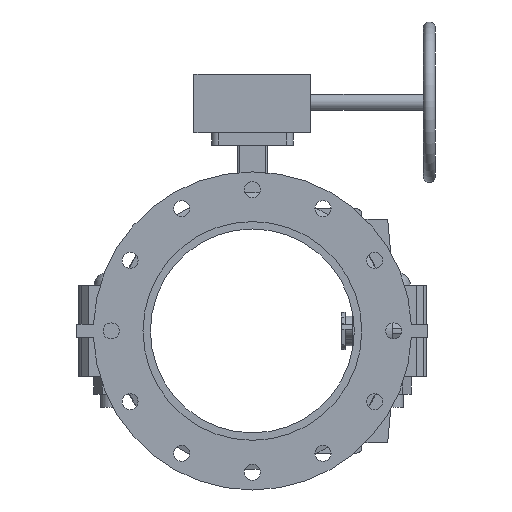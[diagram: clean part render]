
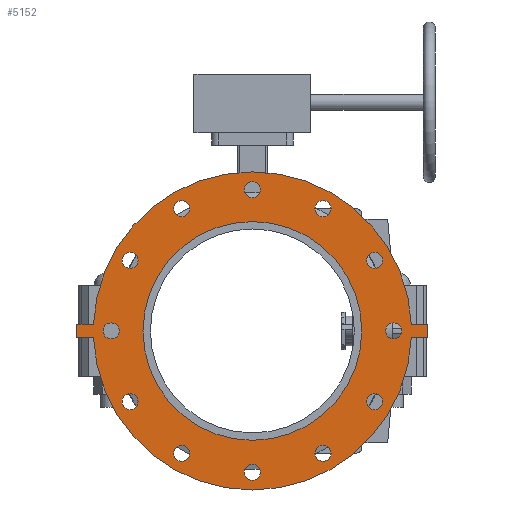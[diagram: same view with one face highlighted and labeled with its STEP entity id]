
A CAD part, front view. The second image highlights one B-rep face of the part: STEP entity #5152.
In plain terms, the highlighted planar face has unit normal (0, -1, 0) as drawn and (0, 0, -1) by its records, which use the part's own axes.
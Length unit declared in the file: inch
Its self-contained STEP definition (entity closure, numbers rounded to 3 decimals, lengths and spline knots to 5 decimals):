
#146=FACE_BOUND('',#701,.T.);
#147=FACE_BOUND('',#702,.T.);
#148=FACE_BOUND('',#703,.T.);
#149=FACE_BOUND('',#704,.T.);
#150=FACE_BOUND('',#705,.T.);
#151=FACE_BOUND('',#706,.T.);
#152=FACE_BOUND('',#707,.T.);
#153=FACE_BOUND('',#708,.T.);
#154=FACE_BOUND('',#709,.T.);
#155=FACE_BOUND('',#710,.T.);
#156=FACE_BOUND('',#711,.T.);
#157=FACE_BOUND('',#712,.T.);
#158=FACE_BOUND('',#713,.T.);
#223=PLANE('',#5629);
#405=FACE_OUTER_BOUND('',#700,.T.);
#700=EDGE_LOOP('',(#3396,#3397,#3398,#3399,#3400,#3401,#3402,#3403));
#701=EDGE_LOOP('',(#3404));
#702=EDGE_LOOP('',(#3405));
#703=EDGE_LOOP('',(#3406));
#704=EDGE_LOOP('',(#3407));
#705=EDGE_LOOP('',(#3408));
#706=EDGE_LOOP('',(#3409));
#707=EDGE_LOOP('',(#3410));
#708=EDGE_LOOP('',(#3411));
#709=EDGE_LOOP('',(#3412));
#710=EDGE_LOOP('',(#3413));
#711=EDGE_LOOP('',(#3414));
#712=EDGE_LOOP('',(#3415));
#713=EDGE_LOOP('',(#3416));
#1047=LINE('',#7863,#1414);
#1050=LINE('',#7869,#1417);
#1053=LINE('',#7874,#1420);
#1055=LINE('',#7879,#1422);
#1059=LINE('',#7886,#1426);
#1061=LINE('',#7889,#1428);
#1414=VECTOR('',#6295,0.3937);
#1417=VECTOR('',#6300,0.3937);
#1420=VECTOR('',#6305,0.3937);
#1422=VECTOR('',#6309,0.3937);
#1426=VECTOR('',#6315,0.3937);
#1428=VECTOR('',#6319,0.3937);
#1765=CIRCLE('',#5579,0.395);
#1767=CIRCLE('',#5582,0.395);
#1769=CIRCLE('',#5585,0.395);
#1771=CIRCLE('',#5588,0.395);
#1773=CIRCLE('',#5591,0.395);
#1775=CIRCLE('',#5594,0.395);
#1777=CIRCLE('',#5597,0.395);
#1779=CIRCLE('',#5600,0.395);
#1781=CIRCLE('',#5603,0.395);
#1783=CIRCLE('',#5606,0.395);
#1785=CIRCLE('',#5609,0.395);
#1787=CIRCLE('',#5612,0.395);
#1788=CIRCLE('',#5614,5.375);
#1790=CIRCLE('',#5617,7.815);
#1793=CIRCLE('',#5621,7.815);
#2071=VERTEX_POINT('',#7768);
#2073=VERTEX_POINT('',#7774);
#2075=VERTEX_POINT('',#7780);
#2077=VERTEX_POINT('',#7786);
#2079=VERTEX_POINT('',#7792);
#2081=VERTEX_POINT('',#7798);
#2083=VERTEX_POINT('',#7804);
#2085=VERTEX_POINT('',#7810);
#2087=VERTEX_POINT('',#7816);
#2089=VERTEX_POINT('',#7822);
#2091=VERTEX_POINT('',#7828);
#2093=VERTEX_POINT('',#7834);
#2094=VERTEX_POINT('',#7838);
#2096=VERTEX_POINT('',#7844);
#2098=VERTEX_POINT('',#7847);
#2100=VERTEX_POINT('',#7853);
#2103=VERTEX_POINT('',#7858);
#2104=VERTEX_POINT('',#7862);
#2106=VERTEX_POINT('',#7868);
#2108=VERTEX_POINT('',#7877);
#2109=VERTEX_POINT('',#7878);
#2567=EDGE_CURVE('',#2071,#2071,#1765,.T.);
#2570=EDGE_CURVE('',#2073,#2073,#1767,.T.);
#2573=EDGE_CURVE('',#2075,#2075,#1769,.T.);
#2576=EDGE_CURVE('',#2077,#2077,#1771,.T.);
#2579=EDGE_CURVE('',#2079,#2079,#1773,.T.);
#2582=EDGE_CURVE('',#2081,#2081,#1775,.T.);
#2585=EDGE_CURVE('',#2083,#2083,#1777,.T.);
#2588=EDGE_CURVE('',#2085,#2085,#1779,.T.);
#2591=EDGE_CURVE('',#2087,#2087,#1781,.T.);
#2594=EDGE_CURVE('',#2089,#2089,#1783,.T.);
#2597=EDGE_CURVE('',#2091,#2091,#1785,.T.);
#2600=EDGE_CURVE('',#2093,#2093,#1787,.T.);
#2601=EDGE_CURVE('',#2094,#2094,#1788,.T.);
#2605=EDGE_CURVE('',#2096,#2098,#1790,.T.);
#2611=EDGE_CURVE('',#2103,#2100,#1793,.T.);
#2612=EDGE_CURVE('',#2098,#2104,#1047,.T.);
#2615=EDGE_CURVE('',#2106,#2103,#1050,.T.);
#2618=EDGE_CURVE('',#2104,#2106,#1053,.T.);
#2620=EDGE_CURVE('',#2108,#2109,#1055,.T.);
#2624=EDGE_CURVE('',#2100,#2108,#1059,.T.);
#2626=EDGE_CURVE('',#2109,#2096,#1061,.T.);
#3396=ORIENTED_EDGE('',*,*,#2626,.F.);
#3397=ORIENTED_EDGE('',*,*,#2620,.F.);
#3398=ORIENTED_EDGE('',*,*,#2624,.F.);
#3399=ORIENTED_EDGE('',*,*,#2611,.F.);
#3400=ORIENTED_EDGE('',*,*,#2615,.F.);
#3401=ORIENTED_EDGE('',*,*,#2618,.F.);
#3402=ORIENTED_EDGE('',*,*,#2612,.F.);
#3403=ORIENTED_EDGE('',*,*,#2605,.F.);
#3404=ORIENTED_EDGE('',*,*,#2567,.T.);
#3405=ORIENTED_EDGE('',*,*,#2570,.T.);
#3406=ORIENTED_EDGE('',*,*,#2573,.T.);
#3407=ORIENTED_EDGE('',*,*,#2576,.T.);
#3408=ORIENTED_EDGE('',*,*,#2579,.T.);
#3409=ORIENTED_EDGE('',*,*,#2582,.T.);
#3410=ORIENTED_EDGE('',*,*,#2585,.T.);
#3411=ORIENTED_EDGE('',*,*,#2588,.T.);
#3412=ORIENTED_EDGE('',*,*,#2591,.T.);
#3413=ORIENTED_EDGE('',*,*,#2594,.T.);
#3414=ORIENTED_EDGE('',*,*,#2597,.T.);
#3415=ORIENTED_EDGE('',*,*,#2600,.T.);
#3416=ORIENTED_EDGE('',*,*,#2601,.T.);
#5152=ADVANCED_FACE('',(#405,#146,#147,#148,#149,#150,#151,#152,#153,#154,
#155,#156,#157,#158),#223,.F.);
#5579=AXIS2_PLACEMENT_3D('',#7770,#6191,#6192);
#5582=AXIS2_PLACEMENT_3D('',#7776,#6198,#6199);
#5585=AXIS2_PLACEMENT_3D('',#7782,#6205,#6206);
#5588=AXIS2_PLACEMENT_3D('',#7788,#6212,#6213);
#5591=AXIS2_PLACEMENT_3D('',#7794,#6219,#6220);
#5594=AXIS2_PLACEMENT_3D('',#7800,#6226,#6227);
#5597=AXIS2_PLACEMENT_3D('',#7806,#6233,#6234);
#5600=AXIS2_PLACEMENT_3D('',#7812,#6240,#6241);
#5603=AXIS2_PLACEMENT_3D('',#7818,#6247,#6248);
#5606=AXIS2_PLACEMENT_3D('',#7824,#6254,#6255);
#5609=AXIS2_PLACEMENT_3D('',#7830,#6261,#6262);
#5612=AXIS2_PLACEMENT_3D('',#7836,#6268,#6269);
#5614=AXIS2_PLACEMENT_3D('',#7839,#6272,#6273);
#5617=AXIS2_PLACEMENT_3D('',#7848,#6280,#6281);
#5621=AXIS2_PLACEMENT_3D('',#7860,#6291,#6292);
#5629=AXIS2_PLACEMENT_3D('',#7892,#6323,#6324);
#6191=DIRECTION('center_axis',(0.,0.,1.));
#6192=DIRECTION('ref_axis',(-0.5,-0.866,0.));
#6198=DIRECTION('center_axis',(0.,0.,1.));
#6199=DIRECTION('ref_axis',(-0.866,-0.5,0.));
#6205=DIRECTION('center_axis',(0.,0.,1.));
#6206=DIRECTION('ref_axis',(-1.,0.,0.));
#6212=DIRECTION('center_axis',(0.,0.,1.));
#6213=DIRECTION('ref_axis',(-0.866,0.5,0.));
#6219=DIRECTION('center_axis',(0.,0.,1.));
#6220=DIRECTION('ref_axis',(-0.5,0.866,0.));
#6226=DIRECTION('center_axis',(0.,0.,1.));
#6227=DIRECTION('ref_axis',(0.,1.,0.));
#6233=DIRECTION('center_axis',(0.,0.,1.));
#6234=DIRECTION('ref_axis',(0.5,0.866,0.));
#6240=DIRECTION('center_axis',(0.,0.,1.));
#6241=DIRECTION('ref_axis',(0.866,0.5,0.));
#6247=DIRECTION('center_axis',(0.,0.,1.));
#6248=DIRECTION('ref_axis',(1.,0.,0.));
#6254=DIRECTION('center_axis',(0.,0.,1.));
#6255=DIRECTION('ref_axis',(0.866,-0.5,0.));
#6261=DIRECTION('center_axis',(0.,0.,1.));
#6262=DIRECTION('ref_axis',(0.5,-0.866,0.));
#6268=DIRECTION('center_axis',(0.,0.,1.));
#6269=DIRECTION('ref_axis',(0.,-1.,0.));
#6272=DIRECTION('center_axis',(0.,0.,1.));
#6273=DIRECTION('ref_axis',(0.,-1.,0.));
#6280=DIRECTION('center_axis',(0.,0.,1.));
#6281=DIRECTION('ref_axis',(0.,1.,0.));
#6291=DIRECTION('center_axis',(0.,0.,1.));
#6292=DIRECTION('ref_axis',(0.,1.,0.));
#6295=DIRECTION('',(0.,-1.,0.));
#6300=DIRECTION('',(0.,1.,0.));
#6305=DIRECTION('',(1.,0.,0.));
#6309=DIRECTION('',(-1.,0.,0.));
#6315=DIRECTION('',(0.,1.,0.));
#6319=DIRECTION('',(0.,-1.,0.));
#6323=DIRECTION('center_axis',(0.,0.,1.));
#6324=DIRECTION('ref_axis',(0.,1.,0.));
#7768=CARTESIAN_POINT('',(-5.81272,3.81208,0.));
#7770=CARTESIAN_POINT('Origin',(-6.01022,3.47,0.));
#7774=CARTESIAN_POINT('',(-3.12792,6.20772,0.));
#7776=CARTESIAN_POINT('Origin',(-3.47,6.01022,0.));
#7780=CARTESIAN_POINT('',(0.395,6.94,0.));
#7782=CARTESIAN_POINT('Origin',(0.,6.94,0.));
#7786=CARTESIAN_POINT('',(3.81208,5.81272,0.));
#7788=CARTESIAN_POINT('Origin',(3.47,6.01022,0.));
#7792=CARTESIAN_POINT('',(6.20772,3.12792,0.));
#7794=CARTESIAN_POINT('Origin',(6.01022,3.47,0.));
#7798=CARTESIAN_POINT('',(6.94,-0.395,0.));
#7800=CARTESIAN_POINT('Origin',(6.94,0.,0.));
#7804=CARTESIAN_POINT('',(5.81272,-3.81208,0.));
#7806=CARTESIAN_POINT('Origin',(6.01022,-3.47,0.));
#7810=CARTESIAN_POINT('',(3.12792,-6.20772,0.));
#7812=CARTESIAN_POINT('Origin',(3.47,-6.01022,0.));
#7816=CARTESIAN_POINT('',(-0.395,-6.94,0.));
#7818=CARTESIAN_POINT('Origin',(0.,-6.94,0.));
#7822=CARTESIAN_POINT('',(-3.81208,-5.81272,0.));
#7824=CARTESIAN_POINT('Origin',(-3.47,-6.01022,0.));
#7828=CARTESIAN_POINT('',(-6.20772,-3.12792,0.));
#7830=CARTESIAN_POINT('Origin',(-6.01022,-3.47,0.));
#7834=CARTESIAN_POINT('',(-6.94,0.395,0.));
#7836=CARTESIAN_POINT('Origin',(-6.94,0.,0.));
#7838=CARTESIAN_POINT('',(0.,5.375,0.));
#7839=CARTESIAN_POINT('Origin',(0.,0.,0.));
#7844=CARTESIAN_POINT('',(-0.32,7.80845,0.));
#7847=CARTESIAN_POINT('',(-0.32,-7.80845,0.));
#7848=CARTESIAN_POINT('Origin',(0.,0.,0.));
#7853=CARTESIAN_POINT('',(0.32,7.80845,0.));
#7858=CARTESIAN_POINT('',(0.32,-7.80845,0.));
#7860=CARTESIAN_POINT('Origin',(0.,0.,0.));
#7862=CARTESIAN_POINT('',(-0.32,-8.625,0.));
#7863=CARTESIAN_POINT('',(-0.32,-7.80845,0.));
#7868=CARTESIAN_POINT('',(0.32,-8.625,0.));
#7869=CARTESIAN_POINT('',(0.32,-8.625,0.));
#7874=CARTESIAN_POINT('',(-0.32,-8.625,0.));
#7877=CARTESIAN_POINT('',(0.32,8.625,0.));
#7878=CARTESIAN_POINT('',(-0.32,8.625,0.));
#7879=CARTESIAN_POINT('',(0.32,8.625,0.));
#7886=CARTESIAN_POINT('',(0.32,7.80845,0.));
#7889=CARTESIAN_POINT('',(-0.32,8.625,0.));
#7892=CARTESIAN_POINT('Origin',(0.,8.24119,0.));
